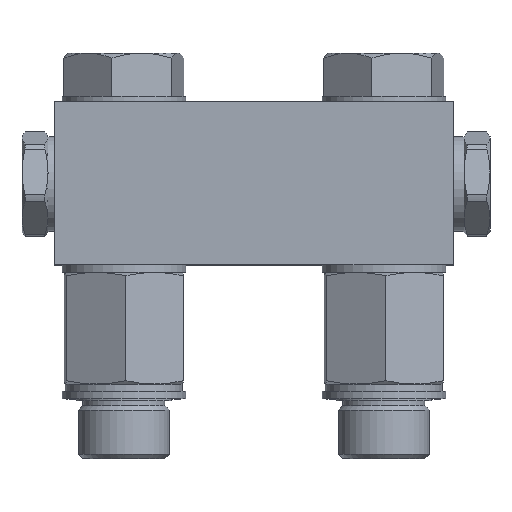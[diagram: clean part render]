
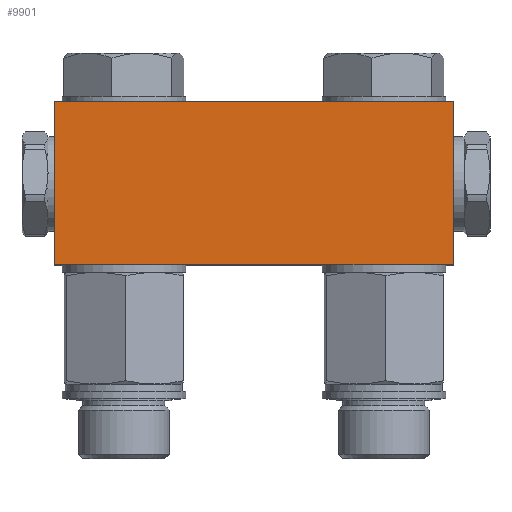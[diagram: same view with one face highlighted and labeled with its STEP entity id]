
A CAD part, top view. The second image highlights one B-rep face of the part: STEP entity #9901.
In plain terms, the highlighted planar face has unit normal (0, 0, 1).
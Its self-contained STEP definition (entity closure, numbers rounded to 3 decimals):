
#1114=LINE('',#14331,#1534);
#1125=LINE('',#15084,#1545);
#1133=LINE('',#15340,#1553);
#1136=LINE('',#15346,#1556);
#1534=VECTOR('',#12065,1000.);
#1545=VECTOR('',#12100,1000.);
#1553=VECTOR('',#12144,1000.);
#1556=VECTOR('',#12149,1000.);
#2317=ORIENTED_EDGE('',*,*,#5271,.F.);
#2318=ORIENTED_EDGE('',*,*,#4929,.F.);
#2319=ORIENTED_EDGE('',*,*,#5186,.F.);
#2320=ORIENTED_EDGE('',*,*,#5274,.F.);
#4929=EDGE_CURVE('',#6416,#6417,#1114,.T.);
#5186=EDGE_CURVE('',#6670,#6416,#1125,.T.);
#5271=EDGE_CURVE('',#6417,#6753,#1133,.T.);
#5274=EDGE_CURVE('',#6753,#6670,#1136,.T.);
#6416=VERTEX_POINT('',#14330);
#6417=VERTEX_POINT('',#14332);
#6670=VERTEX_POINT('',#15083);
#6753=VERTEX_POINT('',#15341);
#7740=EDGE_LOOP('',(#2317,#2318,#2319,#2320));
#8614=FACE_BOUND('',#7740,.T.);
#9452=PLANE('',#11168);
#9901=ADVANCED_FACE('',(#8614),#9452,.F.);
#11168=AXIS2_PLACEMENT_3D('',#15350,#12152,#12153);
#12065=DIRECTION('',(1.,0.,0.));
#12100=DIRECTION('',(0.,1.,0.));
#12144=DIRECTION('',(0.,-1.,0.));
#12149=DIRECTION('',(-1.,0.,0.));
#12152=DIRECTION('',(0.,0.,-1.));
#12153=DIRECTION('',(-1.,0.,0.));
#14330=CARTESIAN_POINT('',(0.,37.6,50.8));
#14331=CARTESIAN_POINT('',(0.,37.6,50.8));
#14332=CARTESIAN_POINT('',(92.,37.6,50.8));
#15083=CARTESIAN_POINT('',(0.,0.,50.8));
#15084=CARTESIAN_POINT('',(0.,0.,50.8));
#15340=CARTESIAN_POINT('',(92.,37.6,50.8));
#15341=CARTESIAN_POINT('',(92.,0.,50.8));
#15346=CARTESIAN_POINT('',(92.,0.,50.8));
#15350=CARTESIAN_POINT('',(0.,0.,50.8));
